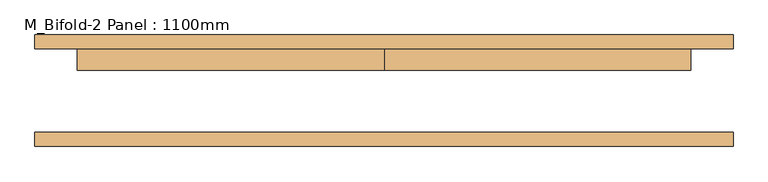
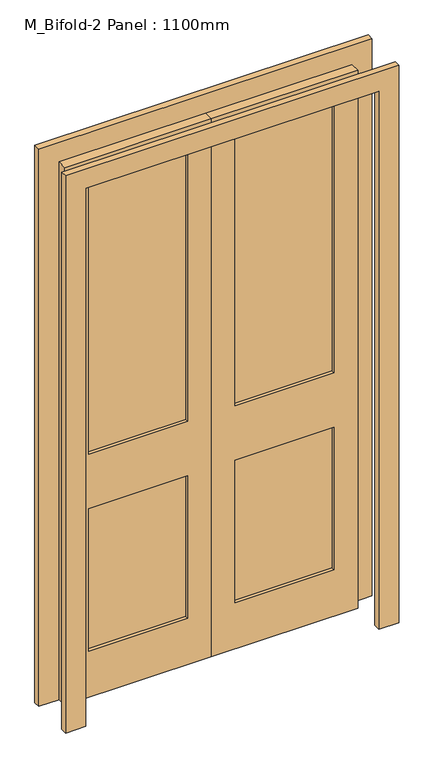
"""IFC4 building model written with IfcOpenShell, lengths in millimetres: door geometry, M_Bifold-2 Panel : 1100mm."""

from ifc_helpers import new_model, si_unit, frame, origin, place, context, project, spatial, polyline, outline, extrude, source, transform, mapped, element, save


def m_bifold_2_panel_1100mm_63e763a0(model_context):
    return source(origin(), model_context, "Body", "SweptSolid", [
        extrude(outline(polyline([(2134.0, 0.0), (2134.0, -550.0), (0.0, -550.0), (0.0, 0.0), (2134.0, 0.0)]), holes=[polyline([(2045.1, -88.9), (965.11872, -88.9), (965.11872, -461.1), (2045.1, -461.1), (2045.1, -88.9)]), polyline([(749.3, -88.9), (184.15, -88.9), (184.15, -461.1), (749.3, -461.1), (749.3, -88.9)])]), frame((0.0, 36.9, 0.0), z_axis=(0.0, 1.0, 0.0), x_axis=(0.0, 0.0, 1.0)), (0.0, 0.0, 1.0), 38.1),
        extrude(outline(polyline([(-88.9, 49.6), (-461.1, 49.6), (-461.1, 62.3), (-88.9, 62.3), (-88.9, 49.6)])), frame((0.0, 0.0, 965.11872), z_axis=(0.0, 0.0, 1.0), x_axis=(1.0, 0.0, 0.0)), (0.0, 0.0, 1.0), 1079.98128),
        extrude(outline(polyline([(-88.9, 49.6), (-461.1, 49.6), (-461.1, 62.3), (-88.9, 62.3), (-88.9, 49.6)])), frame((0.0, 0.0, 184.15), z_axis=(0.0, 0.0, 1.0), x_axis=(1.0, 0.0, 0.0)), (0.0, 0.0, 1.0), 565.15),
        extrude(outline(polyline([(461.1, 49.6), (88.9, 49.6), (88.9, 62.3), (461.1, 62.3), (461.1, 49.6)])), frame((0.0, 0.0, 965.11872), z_axis=(0.0, 0.0, 1.0), x_axis=(1.0, 0.0, 0.0)), (0.0, 0.0, 1.0), 1079.98128),
        extrude(outline(polyline([(461.1, 49.6), (88.9, 49.6), (88.9, 62.3), (461.1, 62.3), (461.1, 49.6)])), frame((0.0, 0.0, 184.15), z_axis=(0.0, 0.0, 1.0), x_axis=(1.0, 0.0, 0.0)), (0.0, 0.0, 1.0), 565.15),
        extrude(outline(polyline([(2210.0, -626.0), (0.0, -626.0), (0.0, -550.0), (2134.0, -550.0), (2134.0, 550.0), (0.0, 550.0), (0.0, 626.0), (2210.0, 626.0), (2210.0, -626.0)])), frame((0.0, 75.0, 0.0), z_axis=(0.0, 1.0, 0.0), x_axis=(0.0, 0.0, 1.0)), (0.0, 0.0, 1.0), 25.0),
        extrude(outline(polyline([(2210.0, 626.0), (2210.0, -626.0), (0.0, -626.0), (0.0, -550.0), (2134.0, -550.0), (2134.0, 550.0), (0.0, 550.0), (0.0, 626.0), (2210.0, 626.0)])), frame((0.0, -100.0, 0.0), z_axis=(0.0, 1.0, 0.0), x_axis=(0.0, 0.0, 1.0)), (0.0, 0.0, 1.0), 25.0),
        extrude(outline(polyline([(2134.0, 550.0), (2134.0, 0.0), (0.0, 0.0), (0.0, 550.0), (2134.0, 550.0)]), holes=[polyline([(2045.1, 88.9), (2045.1, 461.1), (965.11872, 461.1), (965.11872, 88.9), (2045.1, 88.9)]), polyline([(749.3, 88.9), (749.3, 461.1), (184.15, 461.1), (184.15, 88.9), (749.3, 88.9)])]), frame((0.0, 36.9, 0.0), z_axis=(0.0, 1.0, 0.0), x_axis=(0.0, 0.0, 1.0)), (0.0, 0.0, 1.0), 38.1),
    ])


if __name__ == "__main__":
    model = new_model("IFC4")
    model_context = context("Model", 3, world=origin())
    ifc_project = project(units=[si_unit("LENGTHUNIT", "METRE", prefix="MILLI")], contexts=[model_context])
    site = spatial("IfcSite", under=ifc_project)
    building = spatial("IfcBuilding", under=site)
    placement = place(None, origin())
    m_bifold_2_panel_1100mm_shape = m_bifold_2_panel_1100mm_63e763a0(model_context)
    element("IfcDoor", 1, ObjectType="M_Bifold-2 Panel : 1100mm", at=placement, inside=building, context=model_context, shape_type="MappedRepresentation", body=[
        mapped(m_bifold_2_panel_1100mm_shape, transform((0.0, 0.0, 0.0), x_axis=(1.0, 0.0, 0.0), y_axis=(0.0, 1.0, 0.0), z_axis=(0.0, 0.0, 1.0))),
    ])
    save(model, "model.ifc")
